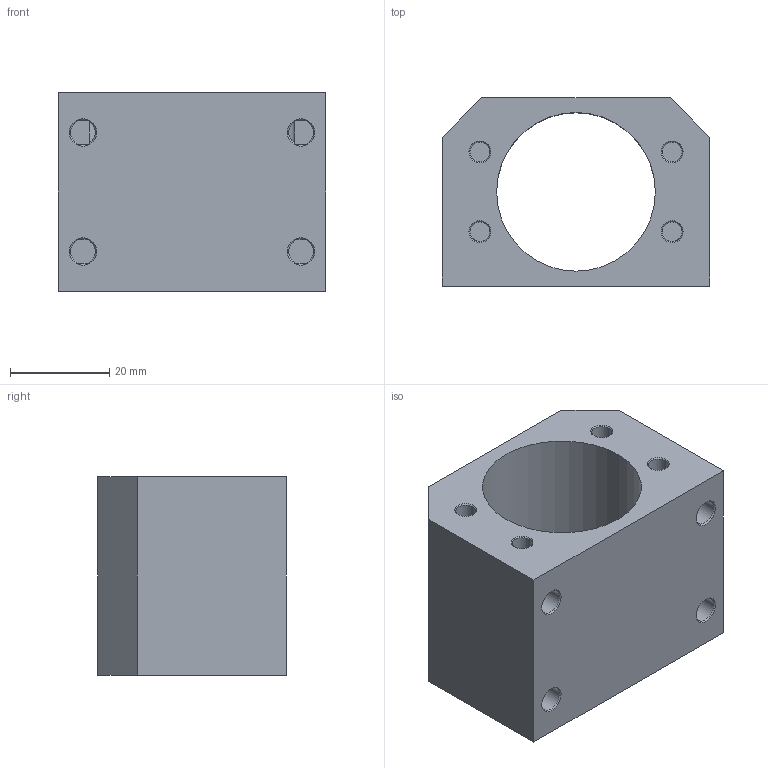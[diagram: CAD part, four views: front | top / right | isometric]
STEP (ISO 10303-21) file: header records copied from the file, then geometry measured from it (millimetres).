
FILE_DESCRIPTION (( 'STEP AP214' ), '1' );
FILE_NAME ('DSG1616.STEP', '2022-04-21T10:35:42', ( '' ), ( '' ), 'SwSTEP 2.0', 'SolidWorks 2019', '' );
FILE_SCHEMA (( 'AUTOMOTIVE_DESIGN' ));
Length unit declared in the file: millimetre
Products named in the file (1): DSG1616
Bounding box: 54 x 38 x 40 mm (x, y, z)
Volume: 46040.4 mm3; surface area: 14498.1 mm2
Topology: 1 solids, 1 shells, 50 faces, 118 edges, 76 vertices
Faces by surface type: cylinder 18, cone 16, plane 16
Entity records: 1720 total; most frequent: CARTESIAN_POINT 293, DIRECTION 276, ORIENTED_EDGE 236, EDGE_CURVE 118, AXIS2_PLACEMENT_3D 111, VERTEX_POINT 76, EDGE_LOOP 62, CIRCLE 60
